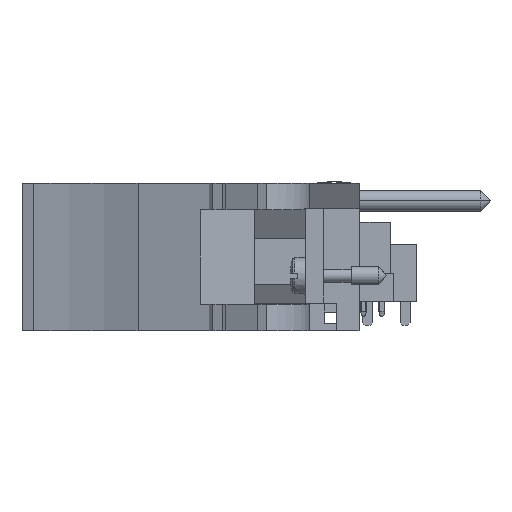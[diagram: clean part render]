
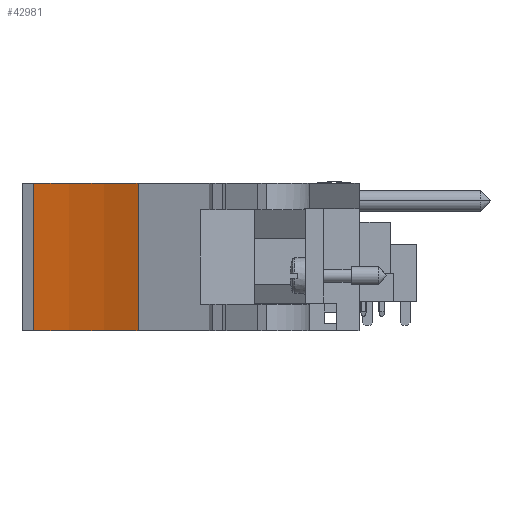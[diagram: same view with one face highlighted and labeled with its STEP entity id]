
A CAD part, front view. The second image highlights one B-rep face of the part: STEP entity #42981.
In plain terms, the highlighted cylindrical face has radius 51.46 mm (diameter 102.919 mm), a partial arc.
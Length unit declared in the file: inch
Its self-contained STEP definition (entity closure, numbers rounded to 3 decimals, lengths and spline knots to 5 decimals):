
#20367=DIRECTION('',(0.,0.,1.));
#20368=VECTOR('',#20367,0.788);
#20369=CARTESIAN_POINT('',(-1.23592,-0.40873,
-0.093));
#20370=LINE('',#20369,#20368);
#20428=CARTESIAN_POINT('',(-2.11666,-2.23324,
-0.09299));
#20429=DIRECTION('',(0.,0.,1.));
#20430=DIRECTION('',(0.435,0.901,0.));
#20431=AXIS2_PLACEMENT_3D('',#20428,#20429,#20430);
#20742=CARTESIAN_POINT('',(-2.11666,-2.23324,
0.69501));
#20743=DIRECTION('',(0.,0.,1.));
#20744=DIRECTION('',(0.435,0.901,0.));
#20745=AXIS2_PLACEMENT_3D('',#20742,#20743,#20744);
#20986=DIRECTION('',(0.,0.,1.));
#20987=VECTOR('',#20986,0.788);
#20988=CARTESIAN_POINT('',(-1.79394,-0.23314,
-0.093));
#20989=LINE('',#20988,#20987);
#39954=CARTESIAN_POINT('',(-1.23592,-0.40873,
-0.093));
#39955=CARTESIAN_POINT('',(-1.79394,-0.23314,
-0.093));
#39956=VERTEX_POINT('',#39954);
#39957=VERTEX_POINT('',#39955);
#39958=CARTESIAN_POINT('',(-1.23592,-0.40873,
0.695));
#39959=CARTESIAN_POINT('',(-1.79394,-0.23314,
0.695));
#39960=VERTEX_POINT('',#39958);
#39961=VERTEX_POINT('',#39959);
#42967=CARTESIAN_POINT('',(-2.11666,-2.23324,
0.69501));
#42968=DIRECTION('',(0.,0.,1.));
#42969=DIRECTION('',(0.,1.,0.));
#42970=AXIS2_PLACEMENT_3D('',#42967,#42968,#42969);
#42971=CYLINDRICAL_SURFACE('',#42970,2.02597);
#42973=ORIENTED_EDGE('',*,*,#42972,.T.);
#42975=ORIENTED_EDGE('',*,*,#42974,.T.);
#42977=ORIENTED_EDGE('',*,*,#42976,.F.);
#42978=ORIENTED_EDGE('',*,*,#42950,.F.);
#42979=EDGE_LOOP('',(#42973,#42975,#42977,#42978));
#42980=FACE_OUTER_BOUND('',#42979,.F.);
#42981=ADVANCED_FACE('',(#42980),#42971,.F.);
#20432=CIRCLE('',#20431,2.02597);
#20746=CIRCLE('',#20745,2.02597);
#42950=EDGE_CURVE('',#39956,#39960,#20370,.T.);
#42972=EDGE_CURVE('',#39956,#39957,#20432,.T.);
#42974=EDGE_CURVE('',#39957,#39961,#20989,.T.);
#42976=EDGE_CURVE('',#39960,#39961,#20746,.T.);
